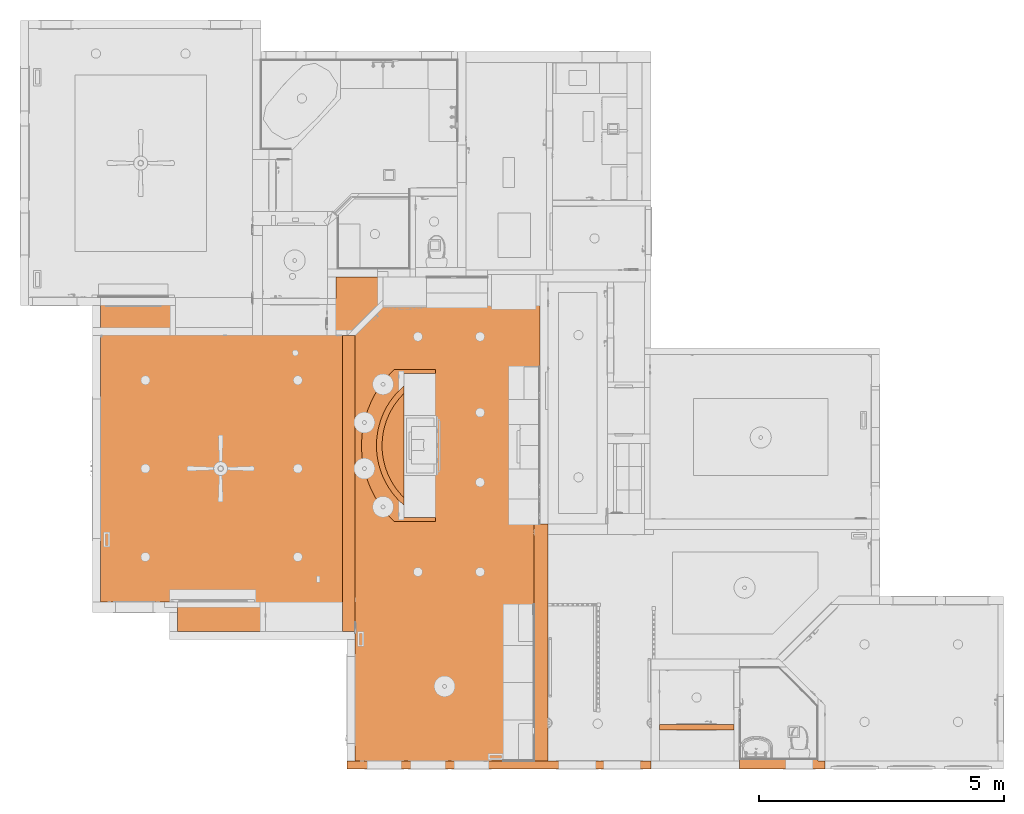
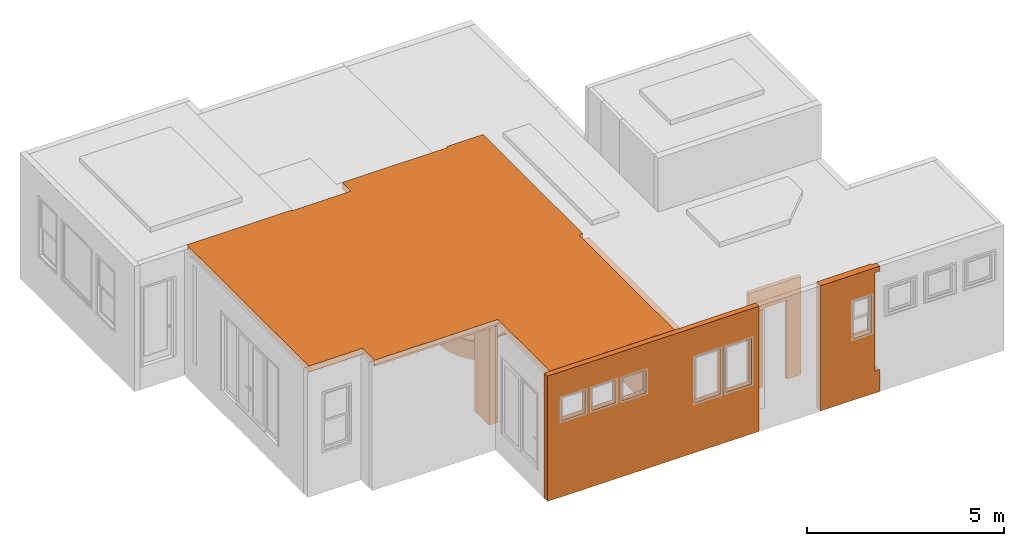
# One storey, part 79 of 103: 8 proxies.
"""IFC2X3 building model written with IfcOpenShell, lengths in inches."""

from ifc_helpers import new_model, entity, si_unit, converted_unit, derived_unit, money_unit, direction, frame, origin_with_axes, place, context, subcontext, project, spatial, faceted_brep, material, type_object, element, save


model = new_model("IFC2X3")

# Units and contexts
model_context = context("Model", 3, precision=0.00039370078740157, world=origin_with_axes(), true_north=direction((0.0, 1.0)))
plan_context = context("Plan", 3, precision=0.00039370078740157, world=origin_with_axes(), true_north=direction((0.0, 1.0)))
body_context = subcontext(model_context, "Body", "Model", "MODEL_VIEW")
ifc_project = project(units=[converted_unit("LENGTHUNIT", "INCH", entity("IfcPositiveLengthMeasure", 0.0254), si_unit("LENGTHUNIT", "METRE"), dimensions=[1, 0, 0, 0, 0, 0, 0]), converted_unit("AREAUNIT", "SQUARE_FOOT", entity("IfcPositiveLengthMeasure", 0.09290304), si_unit("AREAUNIT", "SQUARE_METRE"), dimensions=[2, 0, 0, 0, 0, 0, 0]), si_unit("PLANEANGLEUNIT", "RADIAN"), si_unit("SOLIDANGLEUNIT", "STERADIAN"), money_unit("USD"), converted_unit("TIMEUNIT", "Year", entity("IfcTimeMeasure", 31557600.0), si_unit("TIMEUNIT", "SECOND"), dimensions=[0, 0, 1, 0, 0, 0, 0]), si_unit("MASSUNIT", "GRAM", prefix="KILO"), si_unit("THERMODYNAMICTEMPERATUREUNIT", "DEGREE_CELSIUS"), si_unit("LUMINOUSINTENSITYUNIT", "LUMEN"), si_unit("ENERGYUNIT", "JOULE", prefix="MEGA"), derived_unit("SPECIFICHEATCAPACITYUNIT", [(si_unit("ENERGYUNIT", "JOULE"), 1), (si_unit("MASSUNIT", "GRAM", prefix="KILO"), -1), (si_unit("THERMODYNAMICTEMPERATUREUNIT", "KELVIN"), -1)])], contexts=[model_context, plan_context])

# Site, building, storey
site_placement = place(None, origin_with_axes())
site = spatial("IfcSite", under=ifc_project, at=site_placement, Name="Site", CompositionType="ELEMENT")
building_placement = place(site_placement, origin_with_axes())
building = spatial("IfcBuilding", under=site, at=building_placement, Name="Building", CompositionType="ELEMENT")
storey_placement = place(building_placement, frame((0.0, 0.0, 127.9999999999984), z_axis=(0.0, 0.0, 1.0), x_axis=(1.0, 0.0, 0.0)))
storey = spatial("IfcBuildingStorey", under=building, at=storey_placement, Name="Second Floor", CompositionType="ELEMENT", Elevation=128.0)

# Proxies
ifc_material = material(Name="Generic - Structural")
building_element_proxy_type_1 = type_object("IfcBuildingElementProxyType", Name="Generic - Structural 11\"", PredefinedType="NOTDEFINED")
proxy_1_placement = place(storey_placement, frame((150.4999999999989, 6.499999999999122, 0.0), z_axis=(0.0, 0.0, 1.0), x_axis=(0.0, 1.0, 0.0)))
element("IfcBuildingElementProxy", 1, at=proxy_1_placement, inside=storey, type_object=building_element_proxy_type_1, material=ifc_material, Name="SW - 089", context=body_context, shape_type="Brep", body=[
    faceted_brep([(141.7720647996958, 0.0, 103.9683628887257), (136.6080872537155, 0.0, 101.4896536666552), (131.9679687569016, 0.0, 98.13108792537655), (127.9999999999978, 0.0, 93.99999999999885), (127.9999999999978, 0.0, 0.0), (1.446821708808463e-07, 0.0, 0.0), (1.446821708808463e-07, 0.0, 119.9999999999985), (190.4999999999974, 0.0, 119.9999999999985), (190.4999999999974, 0.0, 0.0), (177.9999999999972, 0.0, 0.0), (177.9999999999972, 0.0, 93.99999999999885), (174.0320312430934, 0.0, 98.1310879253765), (169.3919127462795, 0.0, 101.4896536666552), (164.2279352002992, 0.0, 103.9683628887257), (158.7051309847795, 0.0, 105.4880000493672), (152.9999999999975, 0.0, 105.9999999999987), (147.2948690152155, 0.0, 105.4880000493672), (33.50000032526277, 0.0, 40.99999999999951), (91.50000032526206, 0.0, 40.99999999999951), (91.50000032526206, 0.0, 93.99999999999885), (85.12473441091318, 0.0, 98.69191737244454), (78.00806274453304, 0.0, 102.1576191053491), (70.3831965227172, 0.0, 104.2835351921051), (62.50000032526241, 0.0, 104.9999999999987), (54.61680412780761, 0.0, 104.2835351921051), (46.99193790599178, 0.0, 102.1576191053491), (39.87526623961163, 0.0, 98.69191737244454), (33.50000032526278, 0.0, 93.99999999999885), (136.6080872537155, -10.99999999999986, 101.4896536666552), (141.7720647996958, -10.99999999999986, 103.9683628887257), (131.9679687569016, -10.99999999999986, 98.13108792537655), (127.9999999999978, -10.99999999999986, 93.99999999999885), (127.9999999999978, -10.99999999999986, 0.0), (1.446821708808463e-07, -10.99999999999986, 0.0), (1.446821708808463e-07, -10.99999999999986, 119.9999999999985), (190.4999999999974, -10.99999999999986, 119.9999999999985), (190.4999999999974, -10.99999999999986, 0.0), (177.9999999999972, -10.99999999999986, 0.0), (177.9999999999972, -10.99999999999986, 93.99999999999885), (174.0320312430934, -10.99999999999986, 98.1310879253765), (169.3919127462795, -10.99999999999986, 101.4896536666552), (164.2279352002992, -10.99999999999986, 103.9683628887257), (158.7051309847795, -10.99999999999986, 105.4880000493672), (152.9999999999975, -10.99999999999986, 105.9999999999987), (147.2948690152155, -10.99999999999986, 105.4880000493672), (33.50000032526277, -10.99999999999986, 40.99999999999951), (91.50000032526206, -10.99999999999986, 40.99999999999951), (91.50000032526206, -10.99999999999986, 93.99999999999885), (85.12473441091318, -10.99999999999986, 98.69191737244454), (78.00806274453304, -10.99999999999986, 102.1576191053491), (70.3831965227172, -10.99999999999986, 104.2835351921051), (62.50000032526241, -10.99999999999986, 104.9999999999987), (54.61680412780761, -10.99999999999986, 104.2835351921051), (46.99193790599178, -10.99999999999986, 102.1576191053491), (39.87526623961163, -10.99999999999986, 98.69191737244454), (33.50000032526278, -10.99999999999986, 93.99999999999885)], [[[0, 1, 2, 3, 4, 5, 6, 7, 8, 9, 10, 11, 12, 13, 14, 15, 16], [17, 18, 19, 20, 21, 22, 23, 24, 25, 26, 27]], [[28, 1, 0, 29]], [[30, 2, 1, 28]], [[31, 3, 2, 30]], [[32, 4, 3, 31]], [[32, 33, 5, 4]], [[33, 34, 6, 5]], [[6, 34, 35, 7]], [[7, 35, 36, 8]], [[9, 8, 36, 37]], [[38, 10, 9, 37]], [[39, 11, 10, 38]], [[40, 12, 11, 39]], [[41, 13, 12, 40]], [[42, 14, 13, 41]], [[43, 15, 14, 42]], [[44, 16, 15, 43]], [[29, 0, 16, 44]], [[45, 46, 18, 17]], [[46, 47, 19, 18]], [[47, 48, 20, 19]], [[48, 49, 21, 20]], [[49, 50, 22, 21]], [[50, 51, 23, 22]], [[51, 52, 24, 23]], [[52, 53, 25, 24]], [[53, 54, 26, 25]], [[54, 55, 27, 26]], [[55, 45, 17, 27]], [[43, 42, 41, 40, 39, 38, 37, 36, 35, 34, 33, 32, 31, 30, 28, 29, 44], [49, 48, 47, 46, 45, 55, 54, 53, 52, 51, 50]]]),
])
building_element_proxy_type_2 = type_object("IfcBuildingElementProxyType", Name="Generic - Structural 7 1/2\"", PredefinedType="NOTDEFINED")
proxy_2_placement = place(storey_placement, frame((-198.0004321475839, 134.499991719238, 118.4999999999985), z_axis=(0.0, 0.0, 1.0), x_axis=(1.0, 0.0, 0.0)))
element("IfcBuildingElementProxy", 2, at=proxy_2_placement, inside=storey, type_object=building_element_proxy_type_2, material=ifc_material, Name="SLA - 010", context=body_context, shape_type="Brep", body=[
    faceted_brep([(0.0, 0.0, 7.499999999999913), (0.0, 0.0, 0.0), (62.00043485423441, 5.923230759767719e-06, 0.0), (62.00043485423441, 5.923230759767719e-06, 7.499999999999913), (0.0004383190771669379, 244.5000083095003, 7.499999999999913), (0.0004383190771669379, 244.5000083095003, 0.0), (122.2504306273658, 244.5000083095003, 0.0), (122.2504306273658, 243.5000070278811, 0.0), (189.0004317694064, 243.5000070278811, 0.0), (189.0004317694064, 261.000914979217, 0.0), (311.0004459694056, 261.000914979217, 0.0), (311.0004281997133, 263.0009175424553, 0.0), (353.0004287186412, 263.0009175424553, 0.0), (353.0004287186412, 62.50000606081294, 0.0), (348.500431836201, 62.50000606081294, 0.0), (348.5004321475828, -127.9999917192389, 0.0), (204.5004321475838, -127.9999915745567, 0.0), (204.5004321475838, -23.99999171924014, 0.0), (62.00043485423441, -23.99998929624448, 0.0), (62.00043485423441, -23.99998929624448, 7.499999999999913), (204.5004321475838, -23.99999171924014, 7.499999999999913), (204.5004321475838, -127.9999915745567, 7.499999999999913), (348.5004321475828, -127.9999917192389, 7.499999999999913), (348.500431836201, 62.50000606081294, 7.499999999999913), (353.0004287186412, 62.50000606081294, 7.499999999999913), (353.0004287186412, 263.0009175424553, 7.499999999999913), (311.0004281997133, 263.0009175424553, 7.499999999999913), (311.0004459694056, 261.000914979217, 7.499999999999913), (189.0004317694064, 261.000914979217, 7.499999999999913), (189.0004317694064, 243.5000070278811, 7.499999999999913), (122.2504306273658, 243.5000070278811, 7.499999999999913), (122.2504306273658, 244.5000083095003, 7.499999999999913)], [[[0, 1, 2, 3]], [[4, 5, 1, 0]], [[2, 1, 5, 6, 7, 8, 9, 10, 11, 12, 13, 14, 15, 16, 17, 18]], [[3, 2, 18, 19]], [[0, 3, 19, 20, 21, 22, 23, 24, 25, 26, 27, 28, 29, 30, 31, 4]], [[31, 6, 5, 4]], [[30, 7, 6, 31]], [[29, 8, 7, 30]], [[28, 9, 8, 29]], [[27, 10, 9, 28]], [[26, 11, 10, 27]], [[25, 12, 11, 26]], [[24, 13, 12, 25]], [[23, 14, 13, 24]], [[22, 15, 14, 23]], [[21, 16, 15, 22]], [[20, 17, 16, 21]], [[19, 18, 17, 20]]]),
])
building_element_proxy_type_3 = type_object("IfcBuildingElementProxyType", Name="Generic - Structural 6 1/2\"", PredefinedType="NOTDEFINED")
proxy_3_placement = place(storey_placement, frame((244.4999999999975, 6.500000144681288, -26.99999999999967), z_axis=(0.0, 0.0, 1.0), x_axis=(-1.0, 0.0, 0.0)))
element("IfcBuildingElementProxy", 3, at=proxy_3_placement, inside=storey, type_object=building_element_proxy_type_3, material=ifc_material, Name="SW - 088", context=body_context, shape_type="Brep", body=[
    faceted_brep([(0.0, 6.499999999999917, 152.9999999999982), (244.4999999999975, 6.499999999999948, 152.9999999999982), (244.4999999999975, 6.499999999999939, 0.0), (0.0, 6.499999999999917, 0.0), (0.0, 6.499999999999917, 26.99999999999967), (0.0, 6.499999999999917, 146.9999999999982), (74.49999999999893, 6.499999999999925, 60.99999999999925), (74.49999999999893, 6.49999999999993, 116.9999999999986), (44.49999999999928, 6.499999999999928, 116.9999999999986), (44.49999999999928, 6.499999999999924, 60.99999999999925), (8.499999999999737, 6.499999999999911, 60.99999999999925), (38.49999999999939, 6.499999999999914, 60.99999999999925), (38.49999999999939, 6.499999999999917, 116.9999999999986), (8.499999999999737, 6.499999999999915, 116.9999999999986), (200.4998193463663, 6.499999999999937, 120.9999999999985), (200.4998193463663, 6.499999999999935, 92.99999999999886), (228.4998193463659, 6.499999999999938, 92.99999999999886), (228.4998193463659, 6.499999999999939, 120.9999999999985), (193.4998193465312, 6.499999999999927, 120.9999999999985), (165.4998193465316, 6.499999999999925, 120.9999999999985), (165.4998193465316, 6.499999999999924, 92.99999999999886), (193.4998193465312, 6.499999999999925, 92.99999999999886), (158.4998193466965, 6.499999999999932, 92.99999999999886), (158.4998193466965, 6.499999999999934, 120.9999999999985), (130.4998193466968, 6.499999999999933, 120.9999999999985), (130.4998193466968, 6.499999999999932, 92.99999999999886), (0.0, 0.0, 152.9999999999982), (244.4999999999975, 0.0, 152.9999999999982), (244.4999999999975, 0.0, 0.0), (0.0, 0.0, 0.0), (0.0, 0.0, 26.99999999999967), (0.0, 0.0, 146.9999999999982), (74.49999999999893, 0.0, 60.99999999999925), (74.49999999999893, 0.0, 116.9999999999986), (44.49999999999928, 0.0, 116.9999999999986), (44.49999999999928, 0.0, 60.99999999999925), (8.499999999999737, 0.0, 60.99999999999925), (38.49999999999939, 0.0, 60.99999999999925), (38.49999999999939, 0.0, 116.9999999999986), (8.499999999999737, 0.0, 116.9999999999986), (200.4998193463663, 0.0, 120.9999999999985), (200.4998193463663, 0.0, 92.99999999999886), (228.4998193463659, 0.0, 92.99999999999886), (228.4998193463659, 0.0, 120.9999999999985), (165.4998193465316, 0.0, 120.9999999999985), (193.4998193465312, 0.0, 120.9999999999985), (165.4998193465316, 0.0, 92.99999999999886), (193.4998193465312, 0.0, 92.99999999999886), (158.4998193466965, 0.0, 92.99999999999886), (158.4998193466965, 0.0, 120.9999999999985), (130.4998193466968, 0.0, 120.9999999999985), (130.4998193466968, 0.0, 92.99999999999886)], [[[0, 1, 2, 3, 4, 5], [6, 7, 8, 9], [10, 11, 12, 13], [14, 15, 16, 17], [18, 19, 20, 21], [22, 23, 24, 25]], [[1, 0, 26, 27]], [[27, 28, 2, 1]], [[28, 29, 3, 2]], [[5, 4, 3, 29, 30, 31, 26, 0]], [[32, 33, 7, 6]], [[33, 34, 8, 7]], [[34, 35, 9, 8]], [[35, 32, 6, 9]], [[10, 36, 37, 11]], [[11, 37, 38, 12]], [[12, 38, 39, 13]], [[13, 39, 36, 10]], [[15, 14, 40, 41]], [[16, 15, 41, 42]], [[17, 16, 42, 43]], [[14, 17, 43, 40]], [[44, 19, 18, 45]], [[46, 20, 19, 44]], [[47, 21, 20, 46]], [[45, 18, 21, 47]], [[48, 49, 23, 22]], [[49, 50, 24, 23]], [[50, 51, 25, 24]], [[51, 48, 22, 25]], [[29, 28, 27, 26, 31, 30], [32, 35, 34, 33], [38, 37, 36, 39], [40, 43, 42, 41], [46, 44, 45, 47], [48, 51, 50, 49]]]),
])
building_element_proxy_type_4 = type_object("IfcBuildingElementProxyType", Name="Generic - Structural 4 1/2\"", PredefinedType="NOTDEFINED")
proxy_4_placement = place(storey_placement, frame((45.99966176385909, 301.9951834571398, -5.999999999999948), z_axis=(0.0, 0.0, 1.0), x_axis=(-0.7171722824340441, -0.6968959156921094, 0.0)))
element("IfcBuildingElementProxy", 4, at=proxy_4_placement, inside=storey, type_object=building_element_proxy_type_4, material=ifc_material, Name="SW - 119", context=body_context, shape_type="Brep", body=[
    faceted_brep([(0.0, 0.0, 38.4978682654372), (0.0, 0.0, 5.999999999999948), (-4.241278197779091, -4.364679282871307, 5.999999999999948), (-4.241278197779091, -4.364679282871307, 38.4978682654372), (-2.529754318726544, -2.603358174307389, 38.4978682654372), (2.422078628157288, 0.0, 38.4978682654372), (2.422078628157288, 0.0, 5.999999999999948), (0.0, -4.499999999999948, 5.999999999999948), (-2.608200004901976, -4.499999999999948, 5.999999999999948), (7.24969063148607, 0.4000273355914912, 5.999999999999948), (12.02777989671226, 1.197349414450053, 5.999999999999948), (16.72370722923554, 2.386519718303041, 5.999999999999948), (21.30539468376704, 3.959415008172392, 5.999999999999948), (25.74154468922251, 5.90529081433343, 5.999999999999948), (30.00185384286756, 8.210854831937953, 5.999999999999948), (34.05721991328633, 10.86035772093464, 5.999999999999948), (37.87994063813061, 13.83570069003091, 5.999999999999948), (41.44390295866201, 17.11655912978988, 5.999999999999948), (44.72476139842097, 20.68052145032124, 5.999999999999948), (47.70010436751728, 24.50324217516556, 5.999999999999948), (50.3496072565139, 28.55860824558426, 5.999999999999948), (52.65517127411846, 32.81891739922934, 5.999999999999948), (54.60104708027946, 37.25506740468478, 5.999999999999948), (56.17394237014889, 41.83675485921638, 5.999999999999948), (57.36311267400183, 46.53268219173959, 5.999999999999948), (58.1604347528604, 51.31077145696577, 5.999999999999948), (58.56046208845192, 56.1383834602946, 5.999999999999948), (58.53650091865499, 60.23963555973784, 5.999999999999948), (62.75056495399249, 64.5763088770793, 5.999999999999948), (63.03452867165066, 60.36879666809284, 5.999999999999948), (63.06046208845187, 55.95226208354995, 5.999999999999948), (62.6296951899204, 50.75367872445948, 5.999999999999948), (61.77110396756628, 45.60842361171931, 5.999999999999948), (60.49055347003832, 40.5516440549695, 5.999999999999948), (58.79679115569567, 35.61788298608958, 5.999999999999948), (56.70138713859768, 30.84084299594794, 5.999999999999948), (54.21865515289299, 26.2531561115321, 5.999999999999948), (51.36555477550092, 21.88616088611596, 5.999999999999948), (48.1615755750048, 17.76968832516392, 5.999999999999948), (44.62860397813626, 13.93185811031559, 5.999999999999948), (40.79077376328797, 10.39888651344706, 5.999999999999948), (36.67430120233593, 7.194907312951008, 5.999999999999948), (32.30730597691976, 4.341806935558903, 5.999999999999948), (27.71961909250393, 1.85907494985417, 5.999999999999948), (22.94257910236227, -0.2363290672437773, 5.999999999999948), (18.00881803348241, -1.930091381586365, 5.999999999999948), (12.95203847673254, -3.210641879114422, 5.999999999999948), (7.806783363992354, -4.069233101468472, 5.999999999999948), (2.608200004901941, -4.499999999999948, 5.999999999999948), (-2.608200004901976, -4.499999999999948, 38.4978682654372), (0.0, -4.499999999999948, 38.4978682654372), (7.24969063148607, 0.4000273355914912, 38.4978682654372), (2.608200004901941, -4.499999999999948, 38.4978682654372), (12.02777989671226, 1.197349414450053, 38.4978682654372), (16.72370722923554, 2.386519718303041, 38.4978682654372), (21.30539468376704, 3.959415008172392, 38.4978682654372), (25.74154468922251, 5.90529081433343, 38.4978682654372), (30.00185384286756, 8.210854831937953, 38.4978682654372), (34.05721991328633, 10.86035772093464, 38.4978682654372), (37.87994063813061, 13.83570069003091, 38.4978682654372), (41.44390295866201, 17.11655912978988, 38.4978682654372), (44.72476139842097, 20.68052145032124, 38.4978682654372), (47.70010436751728, 24.50324217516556, 38.4978682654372), (50.3496072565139, 28.55860824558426, 38.4978682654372), (52.65517127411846, 32.81891739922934, 38.4978682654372), (54.60104708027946, 37.25506740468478, 38.4978682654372), (56.17394237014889, 41.83675485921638, 38.4978682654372), (57.36311267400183, 46.53268219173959, 38.4978682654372), (58.1604347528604, 51.31077145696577, 38.4978682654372), (58.56046208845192, 56.1383834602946, 38.4978682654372), (58.53650091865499, 60.23963555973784, 38.4978682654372), (62.75056495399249, 64.5763088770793, 38.4978682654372), (63.03452867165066, 60.36879666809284, 38.4978682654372), (63.06046208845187, 55.95226208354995, 38.4978682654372), (62.6296951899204, 50.75367872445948, 38.4978682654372), (61.77110396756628, 45.60842361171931, 38.4978682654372), (60.49055347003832, 40.5516440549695, 38.4978682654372), (58.79679115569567, 35.61788298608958, 38.4978682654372), (56.70138713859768, 30.84084299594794, 38.4978682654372), (54.21865515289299, 26.2531561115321, 38.4978682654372), (51.36555477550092, 21.88616088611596, 38.4978682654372), (48.1615755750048, 17.76968832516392, 38.4978682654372), (44.62860397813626, 13.93185811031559, 38.4978682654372), (40.79077376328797, 10.39888651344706, 38.4978682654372), (36.67430120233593, 7.194907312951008, 38.4978682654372), (32.30730597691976, 4.341806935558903, 38.4978682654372), (27.71961909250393, 1.85907494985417, 38.4978682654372), (22.94257910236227, -0.2363290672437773, 38.4978682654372), (18.00881803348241, -1.930091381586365, 38.4978682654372), (12.95203847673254, -3.210641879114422, 38.4978682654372), (7.806783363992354, -4.069233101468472, 38.4978682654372)], [[[0, 1, 2, 3, 4]], [[5, 6, 1, 0]], [[7, 8, 2, 1, 6, 9, 10, 11, 12, 13, 14, 15, 16, 17, 18, 19, 20, 21, 22, 23, 24, 25, 26, 27, 28, 29, 30, 31, 32, 33, 34, 35, 36, 37, 38, 39, 40, 41, 42, 43, 44, 45, 46, 47, 48]], [[3, 2, 8, 49]], [[3, 49, 4]], [[49, 50, 0, 4]], [[51, 9, 6, 5]], [[5, 0, 50, 52]], [[49, 8, 7, 50]], [[53, 10, 9, 51]], [[54, 11, 10, 53]], [[55, 12, 11, 54]], [[56, 13, 12, 55]], [[57, 14, 13, 56]], [[58, 15, 14, 57]], [[59, 16, 15, 58]], [[60, 17, 16, 59]], [[61, 18, 17, 60]], [[62, 19, 18, 61]], [[63, 20, 19, 62]], [[64, 21, 20, 63]], [[65, 22, 21, 64]], [[66, 23, 22, 65]], [[67, 24, 23, 66]], [[68, 25, 24, 67]], [[69, 26, 25, 68]], [[70, 27, 26, 69]], [[71, 28, 27, 70]], [[72, 29, 28, 71]], [[73, 30, 29, 72]], [[74, 31, 30, 73]], [[75, 32, 31, 74]], [[76, 33, 32, 75]], [[77, 34, 33, 76]], [[78, 35, 34, 77]], [[79, 36, 35, 78]], [[80, 37, 36, 79]], [[81, 38, 37, 80]], [[82, 39, 38, 81]], [[83, 40, 39, 82]], [[84, 41, 40, 83]], [[85, 42, 41, 84]], [[86, 43, 42, 85]], [[87, 44, 43, 86]], [[88, 45, 44, 87]], [[89, 46, 45, 88]], [[90, 47, 46, 89]], [[52, 48, 47, 90]], [[50, 7, 48, 52]], [[51, 5, 52, 90]], [[53, 51, 90, 89]], [[54, 53, 89, 88]], [[55, 54, 88, 87]], [[56, 55, 87, 86]], [[57, 56, 86, 85]], [[58, 57, 85, 84]], [[59, 58, 84, 83]], [[60, 59, 83, 82]], [[61, 60, 82, 81]], [[62, 61, 81, 80]], [[63, 62, 80, 79]], [[64, 63, 79, 78]], [[65, 64, 78, 77]], [[66, 65, 77, 76]], [[67, 66, 76, 75]], [[68, 67, 75, 74]], [[69, 68, 74, 73]], [[70, 69, 73, 72]], [[70, 72, 71]]]),
])
proxy_5_placement = place(storey_placement, frame((315.499999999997, 35.99999999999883, 0.0), z_axis=(0.0, 0.0, 1.0), x_axis=(-1.0, 0.0, 0.0)))
element("IfcBuildingElementProxy", 5, at=proxy_5_placement, inside=storey, type_object=building_element_proxy_type_4, material=ifc_material, Name="SW - 084", context=body_context, shape_type="Brep", body=[
    faceted_brep([(48.49999999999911, 0.0, 95.9999999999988), (48.49999999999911, 0.0, 0.0), (64.4999999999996, 0.0, 0.0), (64.4999999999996, 0.0, 119.9999999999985), (4.499999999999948, 0.0, 119.9999999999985), (4.499999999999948, 0.0, 0.0), (20.49999999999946, 0.0, 0.0), (20.49999999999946, 0.0, 95.9999999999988), (48.49999999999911, 4.499999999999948, 95.9999999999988), (48.49999999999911, 4.499999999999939, 0.0), (64.4999999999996, 4.499999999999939, 0.0), (64.4999999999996, 4.499999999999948, 119.9999999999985), (4.499999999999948, 4.499999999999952, 119.9999999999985), (4.499999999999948, 4.499999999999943, 0.0), (20.49999999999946, 4.499999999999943, 0.0), (20.49999999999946, 4.499999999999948, 95.9999999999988)], [[[0, 1, 2, 3, 4, 5, 6, 7]], [[1, 0, 8, 9]], [[1, 9, 10, 2]], [[3, 2, 10, 11]], [[11, 12, 4, 3]], [[4, 12, 13, 5]], [[14, 6, 5, 13]], [[7, 6, 14, 15]], [[0, 7, 15, 8]], [[15, 14, 13, 12, 11, 10, 9, 8]]]),
])
building_element_proxy_type_5 = type_object("IfcBuildingElementProxyType", Name="Generic - Structural 10\"", PredefinedType="NOTDEFINED")
proxy_6_placement = place(storey_placement, frame((-3.499999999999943, 348.5000003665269, -26.99999999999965), z_axis=(0.0, 0.0, 1.0), x_axis=(0.0, -1.0, 0.0)))
element("IfcBuildingElementProxy", 6, at=proxy_6_placement, inside=storey, type_object=building_element_proxy_type_5, material=ifc_material, Name="SW - 099", context=body_context, shape_type="Brep", body=[
    faceted_brep([(74.42082370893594, 9.999955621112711, 131.7734212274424), (41.0281357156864, 9.999955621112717, 128.1002255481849), (7.992530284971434, 9.999955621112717, 121.9999999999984), (7.992530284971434, 9.99995711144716, 26.99999999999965), (0.0, 9.999955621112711, 26.99999999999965), (0.0, 9.999955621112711, 145.4999999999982), (238.0000003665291, 9.999999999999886, 145.4999999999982), (238.0000003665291, 9.999999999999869, 26.99999999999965), (207.992530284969, 9.999994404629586, 26.99999999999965), (207.992530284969, 9.999955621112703, 121.9999999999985), (174.9569248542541, 9.999955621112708, 128.1002255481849), (141.5642368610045, 9.999955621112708, 131.7734212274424), (107.9925302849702, 9.999955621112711, 132.9999999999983), (74.42082370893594, 0.0, 131.7734212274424), (41.0281357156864, 0.0, 128.1002255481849), (7.992530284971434, 0.0, 121.9999999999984), (7.992530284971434, 0.0, 26.99999999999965), (0.0, 0.0, 26.99999999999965), (0.0, 0.0, 145.4999999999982), (238.0000001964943, 0.0, 145.4999999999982), (238.0000010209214, 0.0, 26.99999999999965), (207.992530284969, 0.0, 26.99999999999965), (207.992530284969, 0.0, 121.9999999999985), (174.9569248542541, 0.0, 128.1002255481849), (141.5642368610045, 0.0, 131.7734212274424), (107.9925302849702, 0.0, 132.9999999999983)], [[[0, 1, 2, 3, 4, 5, 6, 7, 8, 9, 10, 11, 12]], [[1, 0, 13, 14]], [[2, 1, 14, 15]], [[3, 2, 15, 16]], [[3, 16, 17, 4]], [[18, 5, 4, 17]], [[6, 5, 18, 19]], [[6, 19, 20, 7]], [[21, 8, 7, 20]], [[9, 8, 21, 22]], [[10, 9, 22, 23]], [[11, 10, 23, 24]], [[12, 11, 24, 25]], [[0, 12, 25, 13]], [[22, 21, 20, 19, 18, 17, 16, 15, 14, 13, 25, 24, 23]]]),
])
building_element_proxy_type_6 = type_object("IfcBuildingElementProxyType", Name="Generic - Structural 8\"", PredefinedType="NOTDEFINED")
proxy_7_placement = place(storey_placement, frame((383.9999999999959, 7.999999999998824, -26.99999999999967), z_axis=(0.0, 0.0, 1.0), x_axis=(-1.0, 0.0, 0.0)))
element("IfcBuildingElementProxy", 7, at=proxy_7_placement, inside=storey, type_object=building_element_proxy_type_6, material=ifc_material, Name="SW - 081", context=body_context, shape_type="Brep", body=[
    faceted_brep([(5.499999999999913, 8.000000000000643, 26.99999999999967), (5.499999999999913, 8.000000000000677, 146.9999999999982), (0.0, 8.000000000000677, 146.9999999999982), (0.0, 7.999999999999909, 152.9999999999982), (68.4999999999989, 7.999999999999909, 152.9999999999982), (68.4999999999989, 8.000000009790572, 146.9999999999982), (68.4999999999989, 8.000000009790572, 26.99999999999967), (68.4999999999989, 7.999999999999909, 0.0), (0.0, 7.999999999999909, 0.0), (0.0, 8.000000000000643, 26.99999999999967), (31.49999999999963, 7.999999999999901, 74.99999999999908), (31.49999999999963, 7.999999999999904, 120.9999999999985), (9.499999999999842, 7.999999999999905, 120.9999999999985), (9.499999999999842, 7.999999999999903, 74.99999999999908), (5.499988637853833, 1.500003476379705, 26.99999999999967), (5.499988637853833, 0.0, 26.99999999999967), (5.500001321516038, 0.0, 146.9999999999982), (5.500001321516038, 1.500000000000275, 146.9999999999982), (0.0, 1.500000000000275, 146.9999999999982), (0.0, 1.500000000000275, 152.9999999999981), (68.4999999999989, 0.0, 152.9999999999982), (5.500001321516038, 1.500000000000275, 152.9999999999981), (5.500001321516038, 0.0, 152.9999999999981), (68.4999999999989, 0.0, 146.9999999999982), (68.4999999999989, 0.0, 26.99999999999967), (68.4999999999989, 0.0, 0.0), (5.499988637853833, 0.0, 0.0), (5.499988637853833, 1.500003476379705, 0.0), (0.0, 1.500003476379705, 0.0), (0.0, 1.500003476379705, 26.99999999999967), (31.49999999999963, 0.0, 74.99999999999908), (31.49999999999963, 0.0, 120.9999999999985), (9.499999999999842, 0.0, 120.9999999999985), (9.499999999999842, 0.0, 74.99999999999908)], [[[0, 1, 2, 3, 4, 5, 6, 7, 8, 9], [10, 11, 12, 13]], [[1, 0, 14, 15, 16, 17]], [[17, 18, 2, 1]], [[18, 19, 3, 2]], [[20, 4, 3, 19, 21, 22]], [[20, 23, 24, 25, 7, 6, 5, 4]], [[8, 7, 25, 26, 27, 28]], [[28, 29, 9, 8]], [[29, 14, 0, 9]], [[30, 31, 11, 10]], [[31, 32, 12, 11]], [[32, 33, 13, 12]], [[33, 30, 10, 13]], [[26, 15, 14, 27]], [[25, 24, 23, 20, 22, 16, 15, 26], [30, 33, 32, 31]], [[16, 22, 21, 17]], [[21, 19, 18, 17]], [[14, 29, 28, 27]]]),
])
building_element_proxy_type_7 = type_object("IfcBuildingElementProxyType", Name="Generic - Structural 1 1/2\"", PredefinedType="NOTDEFINED")
proxy_8_placement = place(storey_placement, frame((37.9951307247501, 321.0041030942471, 32.49786826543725), z_axis=(0.0, 0.0, 1.0), x_axis=(1.0, 0.0, 0.0)))
element("IfcBuildingElementProxy", 8, at=proxy_8_placement, inside=storey, type_object=building_element_proxy_type_7, material=ifc_material, Name="SLA - 002", context=body_context, shape_type="Brep", body=[
    faceted_brep([(0.0, 0.0, 1.502131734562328), (0.0, 0.0, 0.0), (-2.106772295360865, -1.994748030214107, 0.0), (-2.106772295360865, -1.994748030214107, 1.502131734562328), (33.00449265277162, 6.664865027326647e-05, 1.502131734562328), (33.00449265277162, 6.664865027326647e-05, 0.0), (33.00449922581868, -3.254914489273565, 0.0), (8.00449922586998, -3.254964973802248, 0.0), (8.004732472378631, -118.7589196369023, 0.0), (33.00473247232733, -118.7588691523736, 0.0), (33.0047390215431, -122.0020485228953, 0.0), (0.0002463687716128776, -122.0021151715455, 0.0), (-4.268427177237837, -117.7305369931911, 0.0), (-8.034476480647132, -113.3161390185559, 0.0), (-11.48699794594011, -108.6524353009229, 0.0), (-14.60953873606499, -103.7616505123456, 0.0), (-17.38721852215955, -98.66709146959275, 0.0), (-19.80680039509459, -93.3930360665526, 0.0), (-21.85675394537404, -87.96461757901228, 0.0), (-23.52731021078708, -82.40770489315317, 0.0), (-24.81050822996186, -76.7487792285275, 0.0), (-25.70023297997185, -71.01480794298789, 0.0), (-26.19224451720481, -65.23311602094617, 0.0), (-26.28419818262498, -59.43125585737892, 0.0), (-25.97565577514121, -53.63687595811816, 0.0), (-25.26808763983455, -47.87758918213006, 0.0), (-24.16486566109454, -42.18084115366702, 0.0), (-22.6712471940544, -36.57377947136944, 0.0), (-20.79435001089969, -31.08312433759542, 0.0), (-18.54311838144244, -25.73504122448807, 0.0), (-15.92828044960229, -20.55501618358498, 0.0), (-12.96229710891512, -15.5677343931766, 0.0), (-9.659302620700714, -10.79696252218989, 0.0), (-6.035037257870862, -6.265435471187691, 0.0), (-6.035037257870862, -6.265435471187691, 1.502131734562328), (-9.659302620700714, -10.79696252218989, 1.502131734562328), (-12.96229710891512, -15.5677343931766, 1.502131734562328), (-15.92828044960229, -20.55501618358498, 1.502131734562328), (-18.54311838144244, -25.73504122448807, 1.502131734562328), (-20.79435001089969, -31.08312433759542, 1.502131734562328), (-22.6712471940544, -36.57377947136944, 1.502131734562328), (-24.16486566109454, -42.18084115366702, 1.502131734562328), (-25.26808763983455, -47.87758918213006, 1.502131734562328), (-25.97565577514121, -53.63687595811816, 1.502131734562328), (-26.28419818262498, -59.43125585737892, 1.502131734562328), (-26.19224451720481, -65.23311602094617, 1.502131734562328), (-25.70023297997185, -71.01480794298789, 1.502131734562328), (-24.81050822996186, -76.7487792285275, 1.502131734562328), (-23.52731021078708, -82.40770489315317, 1.502131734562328), (-21.85675394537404, -87.96461757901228, 1.502131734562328), (-19.80680039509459, -93.3930360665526, 1.502131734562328), (-17.38721852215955, -98.66709146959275, 1.502131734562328), (-14.60953873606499, -103.7616505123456, 1.502131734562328), (-11.48699794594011, -108.6524353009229, 1.502131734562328), (-8.034476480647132, -113.3161390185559, 1.502131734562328), (-4.268427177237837, -117.7305369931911, 1.502131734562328), (0.0002463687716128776, -122.0021151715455, 1.502131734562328), (33.0047390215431, -122.0020485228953, 1.502131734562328), (33.00473247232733, -118.7588691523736, 1.502131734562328), (8.004732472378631, -118.7589196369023, 1.502131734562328), (8.00449922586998, -3.254964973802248, 1.502131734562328), (33.00449922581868, -3.254914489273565, 1.502131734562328)], [[[0, 1, 2, 3]], [[4, 5, 1, 0]], [[2, 1, 5, 6, 7, 8, 9, 10, 11, 12, 13, 14, 15, 16, 17, 18, 19, 20, 21, 22, 23, 24, 25, 26, 27, 28, 29, 30, 31, 32, 33]], [[3, 2, 33, 34]], [[4, 0, 3, 34, 35, 36, 37, 38, 39, 40, 41, 42, 43, 44, 45, 46, 47, 48, 49, 50, 51, 52, 53, 54, 55, 56, 57, 58, 59, 60, 61]], [[61, 6, 5, 4]], [[60, 7, 6, 61]], [[59, 8, 7, 60]], [[58, 9, 8, 59]], [[57, 10, 9, 58]], [[56, 11, 10, 57]], [[55, 12, 11, 56]], [[54, 13, 12, 55]], [[53, 14, 13, 54]], [[52, 15, 14, 53]], [[51, 16, 15, 52]], [[50, 17, 16, 51]], [[49, 18, 17, 50]], [[48, 19, 18, 49]], [[47, 20, 19, 48]], [[46, 21, 20, 47]], [[45, 22, 21, 46]], [[44, 23, 22, 45]], [[43, 24, 23, 44]], [[42, 25, 24, 43]], [[41, 26, 25, 42]], [[40, 27, 26, 41]], [[39, 28, 27, 40]], [[38, 29, 28, 39]], [[37, 30, 29, 38]], [[36, 31, 30, 37]], [[35, 32, 31, 36]], [[34, 33, 32, 35]]]),
])

save(model, "model.ifc")
